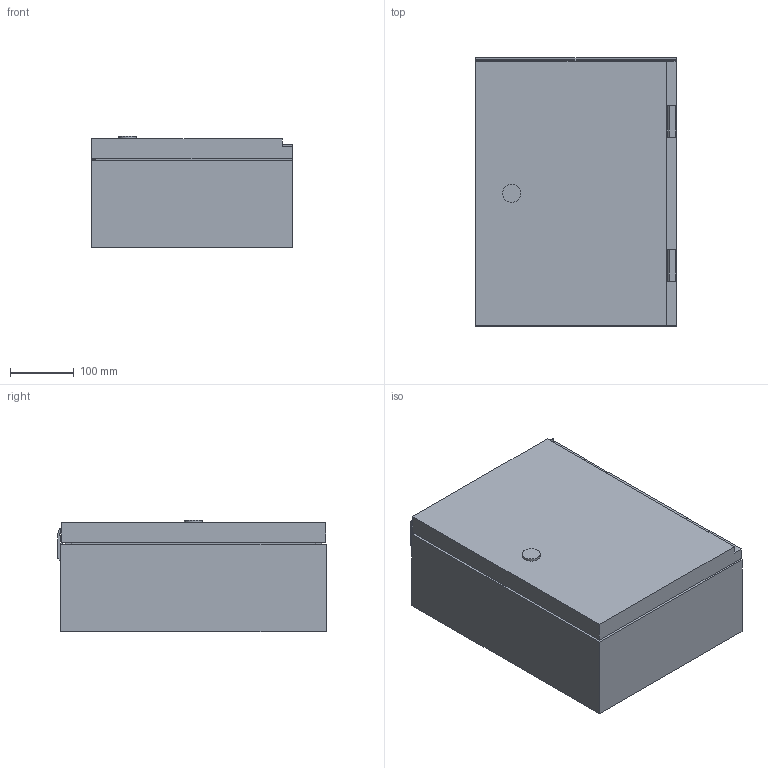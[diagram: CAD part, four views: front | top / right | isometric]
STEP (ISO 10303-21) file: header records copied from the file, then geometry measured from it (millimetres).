
FILE_DESCRIPTION(/* description */ ('STEP AP203'),/* implementation_level */ '2;1');
FILE_NAME(/* name */ 'UCP430(0)',/* time_stamp */ '2024-03-11T15:50:54+01:00',/* author */ ('License CC BY-ND 4.0'),/* organization */ ('CADENAS'),/* preprocessor_version */ 'ST-DEVELOPER v19.3',/* originating_system */ 'PARTsolutions',/* authorisation */ ' ');
FILE_SCHEMA (('CONFIG_CONTROL_DESIGN'));
Length unit declared in the file: millimetre
Products named in the file (7): UCP430(0); UCP430(0)_P1; UCP430(0)_P2; UCPXXXX(0)_P5; UCP/UCPT430(0)_P7; UCP/UCPTXXX(0)_P6; UCP/UCPT430_P4
Assembly tree (8 placements, depth 2):
  UCP430(0)
    UCP430(0)_P1
    UCP430(0)_P2
    UCPXXXX(0)_P5
    UCP/UCPT430(0)_P7  x2
    UCP/UCPTXXX(0)_P6  x2
    UCP/UCPT430_P4
Bounding box: 315 x 419.25 x 174 mm (x, y, z)
Volume: 4809202.7 mm3; surface area: 1155253.7 mm2
Topology: 8 solids, 8 shells, 426 faces, 1128 edges, 747 vertices
Faces by surface type: plane 357, cylinder 62, cone 7
Full cylindrical faces by diameter (mm): 3.5 x4, 4.8 x2, 5.1 x2, 10 x8, 11 x6, 14 x2, 17 x2, 18.5 x2, 19.8 x1, 21 x1, 22 x1, 24 x4, 28 x1, 30 x1
Entity records: 10849 total; most frequent: CARTESIAN_POINT 1872, ORIENTED_EDGE 1784, DIRECTION 1756, EDGE_CURVE 892, LINE 760, VECTOR 760, VERTEX_POINT 614, AXIS2_PLACEMENT_3D 498
